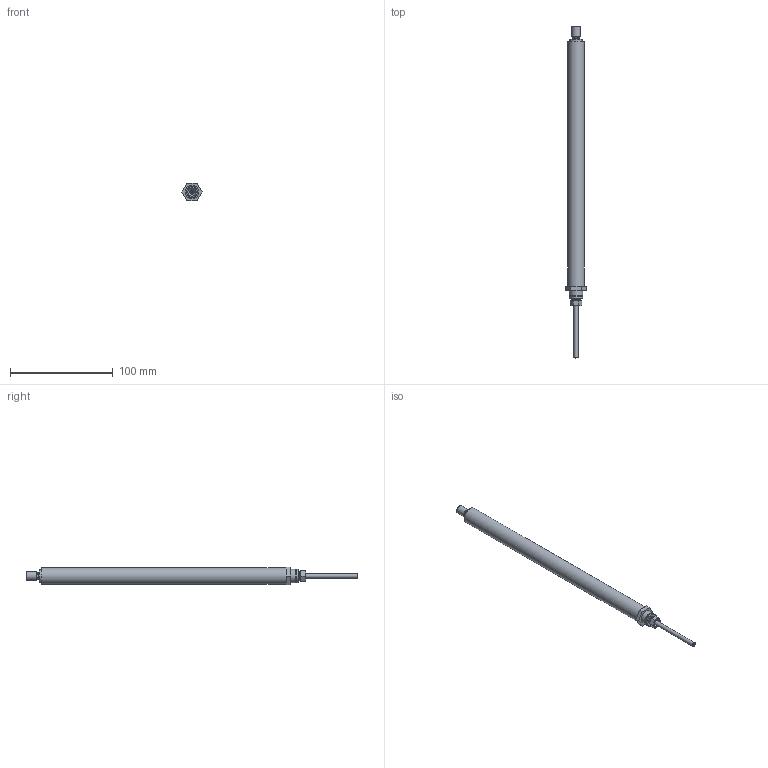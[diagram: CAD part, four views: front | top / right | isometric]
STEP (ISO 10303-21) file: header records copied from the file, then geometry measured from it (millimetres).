
FILE_DESCRIPTION(/* description */ ('Unknown'),/* implementation_level */ '2;1');
FILE_NAME(/* name */ '107.00132 Zylinder CG 1420_eingefahren',/* time_stamp */ '2018-06-15T14:54:01+02:00',/* author */ ('Unknown'),/* organization */ ('Unknown'),/* preprocessor_version */ 'ST-DEVELOPER v16.7',/* originating_system */ 'DEX',/* authorisation */ $);
FILE_SCHEMA (('AUTOMOTIVE_DESIGN {1 0 10303 214 3 1 1}'));
Length unit declared in the file: millimetre
Products named in the file (9): 107.00132; 121.00002; 142.00021; 125.00021; 115.00007_oa_0; 125.00031; 120.00022; 122.00001; 113.00002_70mm
Assembly tree (8 placements, depth 2):
  107.00132
    121.00002
    142.00021
    125.00021
    115.00007_oa_0
    125.00031
    120.00022
    122.00001
    113.00002_70mm
Bounding box: 19.63 x 323 x 17 mm (x, y, z)
Volume: 41255.9 mm3; surface area: 36764.7 mm2
Topology: 7 solids, 7 shells, 95 faces, 187 edges, 118 vertices
Faces by surface type: plane 38, cylinder 28, cone 23, torus 5, sphere 1
Full cylindrical faces by diameter (mm): 2.2 x1, 3.5 x1, 4 x1, 4.1 x1, 4.2 x1, 6 x1, 6.917 x2, 7.763 x2, 8 x4, 8.1 x3, 9 x1, 12 x2, 12.5 x1, 13 x2, 13.9 x2, 14 x2, 16 x1
Entity records: 2880 total; most frequent: DIRECTION 402, CARTESIAN_POINT 377, ORIENTED_EDGE 254, AXIS2_PLACEMENT_3D 183, FACE_BOUND 169, EDGE_LOOP 168, EDGE_CURVE 127, VERTEX_POINT 110
